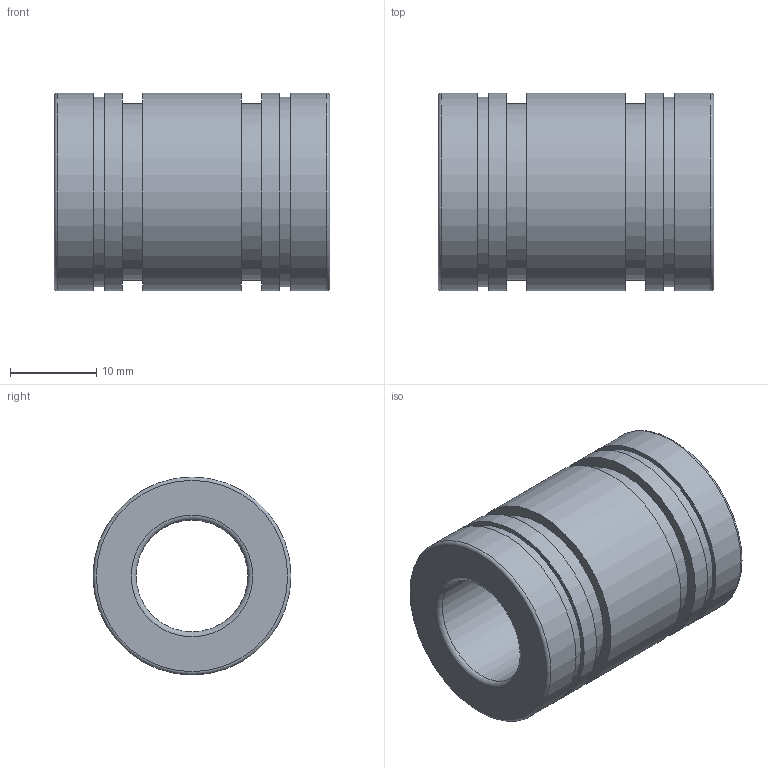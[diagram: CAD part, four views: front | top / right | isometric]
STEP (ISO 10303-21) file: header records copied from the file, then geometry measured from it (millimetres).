
FILE_DESCRIPTION(('STEP AP203'),'1');
FILE_NAME('//192.168.1.1/share/s-4 技術開発/s-4-4_CAD/s-4-4-3_見直し済み/PBC LINEAR修正済み/3D途中/FJ/FJ13.step','2022-03-24T06:58:17',(' '),(' '),'Spatial InterOp 3D',' ',' ');
FILE_SCHEMA(('CONFIG_CONTROL_DESIGN'));
Length unit declared in the file: millimetre
Products named in the file (1): 1
Bounding box: 32 x 23 x 23 mm (x, y, z)
Volume: 8545.5 mm3; surface area: 4574 mm2
Topology: 1 solids, 1 shells, 24 faces, 38 edges, 24 vertices
Faces by surface type: cylinder 10, plane 10, torus 4
Full cylindrical faces by diameter (mm): 13 x1, 20.544 x2, 22 x2, 23 x5
Entity records: 532 total; most frequent: DIRECTION 98, CARTESIAN_POINT 73, AXIS2_PLACEMENT_3D 49, EDGE_LOOP 48, ORIENTED_EDGE 48, FACE_OUTER_BOUND 38, ADVANCED_FACE 24, EDGE_CURVE 24
